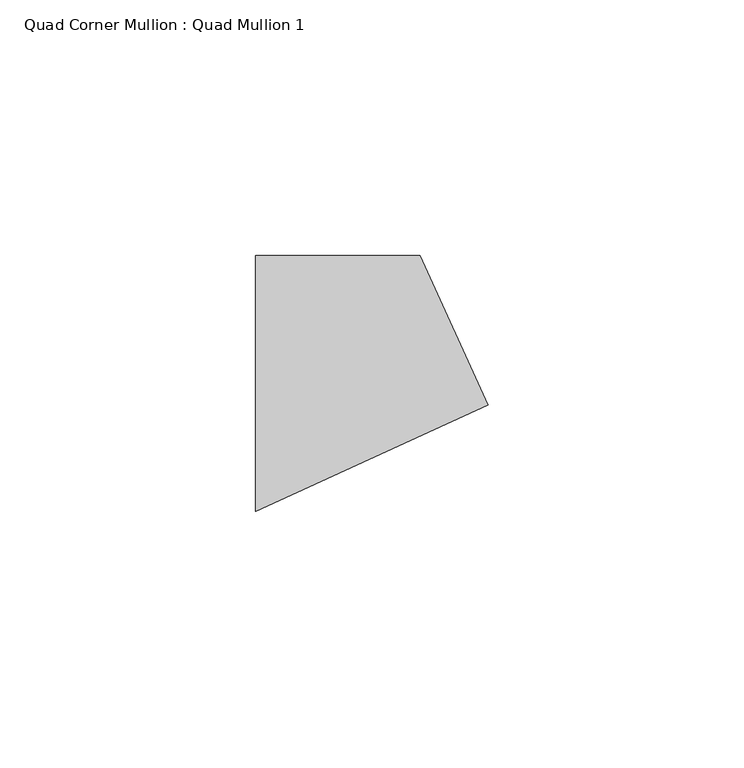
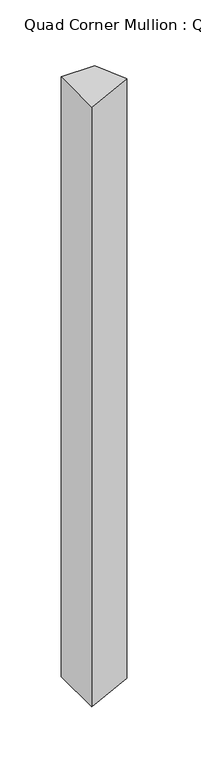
"""IFC4 building model written with IfcOpenShell, lengths in millimetres: member geometry, Quad Corner Mullion : Quad Mullion 1."""

from ifc_helpers import new_model, si_unit, frame, origin, place, context, project, spatial, polyline, outline, extrude, source, transform, mapped, element, save


def quad_corner_mullion_quad_mullion_1_48e8a3f6(model_context):
    return source(origin(), model_context, "Body", "SweptSolid", [
        extrude(outline(polyline([(29.4125559, -4.1926582), (-16.0523154, -25.0), (-16.0523154, 25.0), (16.0523154, 25.0), (29.4125559, -4.1926582)])), frame((0.0, 0.0, -600.0), z_axis=(0.0, 0.0, 1.0), x_axis=(1.0, 0.0, 0.0)), (0.0, 0.0, 1.0), 600.0),
    ])


if __name__ == "__main__":
    model = new_model("IFC4")
    model_context = context("Model", 3, world=origin())
    ifc_project = project(units=[si_unit("LENGTHUNIT", "METRE", prefix="MILLI")], contexts=[model_context])
    site = spatial("IfcSite", under=ifc_project)
    building = spatial("IfcBuilding", under=site)
    placement = place(None, origin())
    quad_corner_mullion_quad_mullion_1_shape = quad_corner_mullion_quad_mullion_1_48e8a3f6(model_context)
    element("IfcMember", 1, ObjectType="Quad Corner Mullion : Quad Mullion 1", at=placement, inside=building, context=model_context, shape_type="MappedRepresentation", body=[
        mapped(quad_corner_mullion_quad_mullion_1_shape, transform((0.0, 0.0, 0.0), x_axis=(1.0, 0.0, 0.0), y_axis=(0.0, 1.0, 0.0), z_axis=(0.0, 0.0, 1.0))),
    ])
    save(model, "model.ifc")
